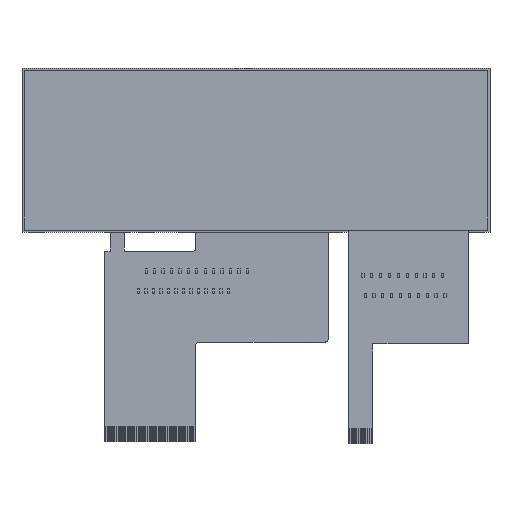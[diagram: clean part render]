
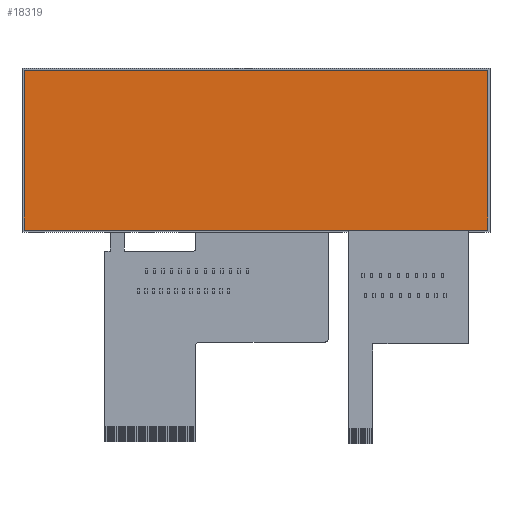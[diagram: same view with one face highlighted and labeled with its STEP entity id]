
A CAD part, top view. The second image highlights one B-rep face of the part: STEP entity #18319.
In plain terms, the highlighted planar face has unit normal (0, 0, 1).
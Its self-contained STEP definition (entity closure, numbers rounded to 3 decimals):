
#125 = CARTESIAN_POINT ( 'NONE',  ( 0., 18., 5.13 ) ) ;
#1481 = ORIENTED_EDGE ( 'NONE', *, *, #10800, .F. ) ;
#1489 = VECTOR ( 'NONE', #3692, 1000. ) ;
#2122 = DIRECTION ( 'NONE',  ( 1., 0., 0. ) ) ;
#2883 = ORIENTED_EDGE ( 'NONE', *, *, #19226, .F. ) ;
#2987 = CARTESIAN_POINT ( 'NONE',  ( 0., -18., 5.13 ) ) ;
#3151 = LINE ( 'NONE', #2987, #14952 ) ;
#3692 = DIRECTION ( 'NONE',  ( 0., -1., 0. ) ) ;
#4284 = ORIENTED_EDGE ( 'NONE', *, *, #24250, .T. ) ;
#5368 = CARTESIAN_POINT ( 'NONE',  ( -52.25, 0., 5.13 ) ) ;
#7676 = DIRECTION ( 'NONE',  ( 0., 0., 1. ) ) ;
#8602 = EDGE_CURVE ( 'NONE', #16421, #23104, #3151, .T. ) ;
#9702 = VECTOR ( 'NONE', #17304, 1000. ) ;
#9998 = CARTESIAN_POINT ( 'NONE',  ( 0., 0., 5.13 ) ) ;
#10800 = EDGE_CURVE ( 'NONE', #20482, #11438, #19870, .T. ) ;
#11033 = EDGE_LOOP ( 'NONE', ( #2883, #1481, #4284, #17203 ) ) ;
#11438 = VERTEX_POINT ( 'NONE', #12132 ) ;
#12132 = CARTESIAN_POINT ( 'NONE',  ( 52.25, 18., 5.13 ) ) ;
#12271 = LINE ( 'NONE', #23427, #9702 ) ;
#13468 = PLANE ( 'NONE',  #19590 ) ;
#14952 = VECTOR ( 'NONE', #19527, 1000. ) ;
#15828 = CARTESIAN_POINT ( 'NONE',  ( -52.25, 18., 5.13 ) ) ;
#16421 = VERTEX_POINT ( 'NONE', #18607 ) ;
#17203 = ORIENTED_EDGE ( 'NONE', *, *, #8602, .T. ) ;
#17304 = DIRECTION ( 'NONE',  ( 0., -1., 0. ) ) ;
#17314 = VECTOR ( 'NONE', #2122, 1000. ) ;
#17791 = FACE_OUTER_BOUND ( 'NONE', #11033, .T. ) ;
#18319 = ADVANCED_FACE ( 'NONE', ( #17791 ), #13468, .T. ) ;
#18607 = CARTESIAN_POINT ( 'NONE',  ( -52.25, -18., 5.13 ) ) ;
#19226 = EDGE_CURVE ( 'NONE', #11438, #23104, #12271, .T. ) ;
#19527 = DIRECTION ( 'NONE',  ( 1., 0., 0. ) ) ;
#19590 = AXIS2_PLACEMENT_3D ( 'NONE', #9998, #7676, #24199 ) ;
#19870 = LINE ( 'NONE', #125, #17314 ) ;
#20482 = VERTEX_POINT ( 'NONE', #15828 ) ;
#20782 = CARTESIAN_POINT ( 'NONE',  ( 52.25, -18., 5.13 ) ) ;
#23104 = VERTEX_POINT ( 'NONE', #20782 ) ;
#23427 = CARTESIAN_POINT ( 'NONE',  ( 52.25, 0., 5.13 ) ) ;
#23461 = LINE ( 'NONE', #5368, #1489 ) ;
#24199 = DIRECTION ( 'NONE',  ( 1., 0., 0. ) ) ;
#24250 = EDGE_CURVE ( 'NONE', #20482, #16421, #23461, .T. ) ;
